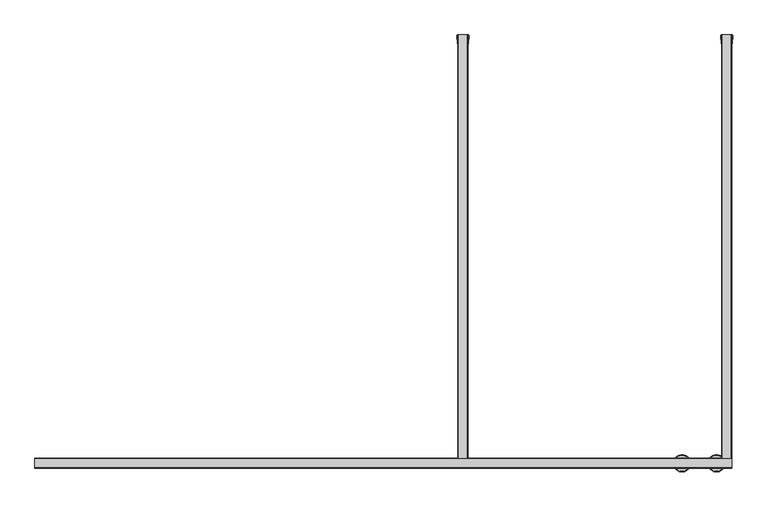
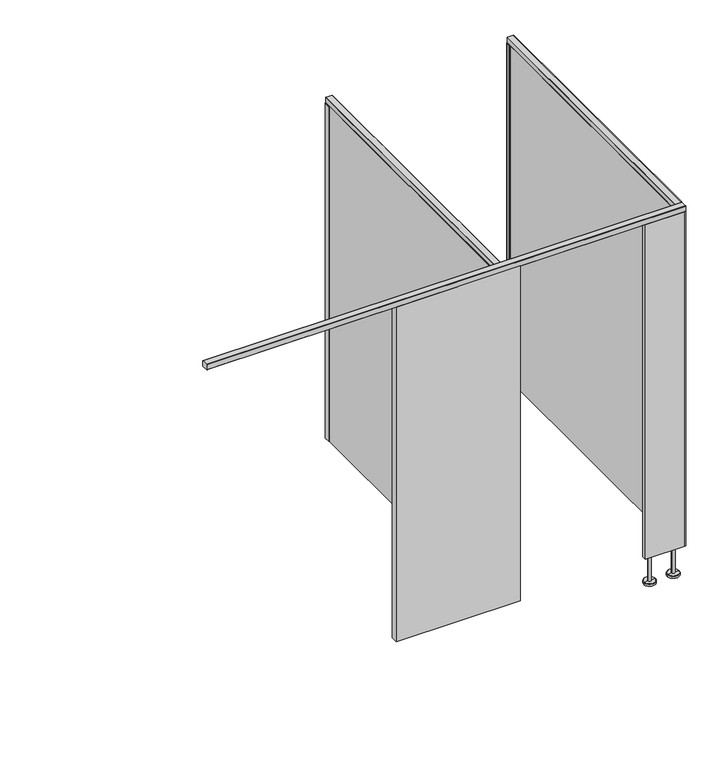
"""IFC4 building model written with IfcOpenShell, lengths in millimetres: proxy geometry, Partition_EuroStyle-Bradley_Corp-ADAStall_1StandardStall-LOFT : Partition_EuroStyle-Bradley_Corp-ADAStall_1StandardStall-LOFT."""

from ifc_helpers import new_model, si_unit, point, frame, frame_2d, origin, place, context, project, spatial, polyline, circle_curve, trimmed, segment, composite_curve, outline, extrude, source, transform, mapped, element, save
from ifc_brep_helpers import plane_surface, cylinder_surface, revolved_surface, advanced_brep


def specialty_equipment_164d930f(model_context):
    return source(origin(), model_context, "Body", "SolidModel", [
        extrude(outline(composite_curve([segment(polyline([(2344.9288796, -32.5000002), (2344.4205405, -2.02918)]), True, "CONTINUOUS"), segment(trimmed(circle_curve(frame_2d((2346.4497205, -2.02918)), 2.02918), [point((2344.4205405, -2.02918))], [point((2346.4497205, 0.0))], False, "CARTESIAN"), True, "CONTINUOUS"), segment(polyline([(2346.4497205, 0.0), (2384.3909298, 0.0)]), True, "CONTINUOUS"), segment(trimmed(circle_curve(frame_2d((2384.3909298, -2.02918)), 2.02918), [point((2384.3909298, 0.0))], [point((2386.4201098, -2.02918))], False, "CARTESIAN"), True, "CONTINUOUS"), segment(polyline([(2386.4201098, -2.02918), (2385.9117707, -32.5000002), (2384.4131851, -32.5000002)]), True, "CONTINUOUS"), segment(trimmed(circle_curve(frame_2d((2384.4167525, -31.5009082)), 0.9990984), [point((2384.4131851, -32.5000002))], [point((2383.9430999, -30.6212202))], False, "CARTESIAN"), True, "CONTINUOUS"), segment(polyline([(2383.9430999, -30.6212202), (2384.0642099, -23.3575702)]), True, "CONTINUOUS"), segment(trimmed(circle_curve(frame_2d((2384.5817558, -22.5000551)), 1.0015917), [point((2384.0642099, -23.3575702))], [point((2384.0926587, -21.6260013))], False, "CARTESIAN"), True, "CONTINUOUS"), segment(polyline([(2384.0926587, -21.6260013), (2384.38671, -4.0)]), True, "CONTINUOUS"), segment(trimmed(circle_curve(frame_2d((2382.3870154, -3.9990939)), 1.9996948), [point((2384.38671, -4.0))], [point((2382.3379958, -2.0))], True, "CARTESIAN"), True, "CONTINUOUS"), segment(polyline([(2382.3379958, -2.0), (2348.4536968, -2.0)]), True, "CONTINUOUS"), segment(trimmed(circle_curve(frame_2d((2348.4536968, -4.0002204)), 2.0002204), [point((2348.4536968, -2.0))], [point((2346.4535049, -3.9895469))], True, "CARTESIAN"), True, "CONTINUOUS"), segment(polyline([(2346.4535049, -3.9895469), (2346.7475604, -21.6257602)]), True, "CONTINUOUS"), segment(trimmed(circle_curve(frame_2d((2346.2588945, -22.5000551)), 1.0015917), [point((2346.7475604, -21.6257602))], [point((2346.7764404, -23.3575702))], False, "CARTESIAN"), True, "CONTINUOUS"), segment(polyline([(2346.7764404, -23.3575702), (2346.8975504, -30.6212202)]), True, "CONTINUOUS"), segment(trimmed(circle_curve(frame_2d((2346.4238978, -31.5009082)), 0.9990984), [point((2346.8975504, -30.6212202))], [point((2346.4274652, -32.5000002))], False, "CARTESIAN"), True, "CONTINUOUS"), segment(polyline([(2346.4274652, -32.5000002), (2344.9288796, -32.5000002)]), True, "CONTINUOUS")], self_intersect=False)), frame((0.0, 0.0, 150.0), z_axis=(0.0, 0.0, 1.0), x_axis=(1.0, 0.0, 0.0)), (0.0, 0.0, 1.0), 1855.0),
        extrude(outline(composite_curve([segment(polyline([(1394.518717, -32.5000002), (1394.0103779, -2.02918)]), True, "CONTINUOUS"), segment(trimmed(circle_curve(frame_2d((1396.0395579, -2.02918)), 2.02918), [point((1394.0103779, -2.02918))], [point((1396.0395579, 0.0))], False, "CARTESIAN"), True, "CONTINUOUS"), segment(polyline([(1396.0395579, 0.0), (1433.9807672, 0.0)]), True, "CONTINUOUS"), segment(trimmed(circle_curve(frame_2d((1433.9807672, -2.02918)), 2.02918), [point((1433.9807672, 0.0))], [point((1436.0099473, -2.02918))], False, "CARTESIAN"), True, "CONTINUOUS"), segment(polyline([(1436.0099473, -2.02918), (1435.5016081, -32.5000002), (1434.0030225, -32.5000002)]), True, "CONTINUOUS"), segment(trimmed(circle_curve(frame_2d((1434.0065899, -31.5009082)), 0.9990984), [point((1434.0030225, -32.5000002))], [point((1433.5329373, -30.6212202))], False, "CARTESIAN"), True, "CONTINUOUS"), segment(polyline([(1433.5329373, -30.6212202), (1433.6540473, -23.3575702)]), True, "CONTINUOUS"), segment(trimmed(circle_curve(frame_2d((1434.1715932, -22.5000551)), 1.0015917), [point((1433.6540473, -23.3575702))], [point((1433.6824961, -21.6260013))], False, "CARTESIAN"), True, "CONTINUOUS"), segment(polyline([(1433.6824961, -21.6260013), (1433.9765475, -4.0)]), True, "CONTINUOUS"), segment(trimmed(circle_curve(frame_2d((1431.9768528, -3.9990939)), 1.9996948), [point((1433.9765475, -4.0))], [point((1431.9278332, -2.0))], True, "CARTESIAN"), True, "CONTINUOUS"), segment(polyline([(1431.9278332, -2.0), (1398.0435342, -2.0)]), True, "CONTINUOUS"), segment(trimmed(circle_curve(frame_2d((1398.0435342, -4.0002204)), 2.0002204), [point((1398.0435342, -2.0))], [point((1396.0433424, -3.9895469))], True, "CARTESIAN"), True, "CONTINUOUS"), segment(polyline([(1396.0433424, -3.9895469), (1396.3373979, -21.6257602)]), True, "CONTINUOUS"), segment(trimmed(circle_curve(frame_2d((1395.848732, -22.5000551)), 1.0015917), [point((1396.3373979, -21.6257602))], [point((1396.3662779, -23.3575702))], False, "CARTESIAN"), True, "CONTINUOUS"), segment(polyline([(1396.3662779, -23.3575702), (1396.4873879, -30.6212202)]), True, "CONTINUOUS"), segment(trimmed(circle_curve(frame_2d((1396.0137352, -31.5009082)), 0.9990984), [point((1396.4873879, -30.6212202))], [point((1396.0173026, -32.5000002))], False, "CARTESIAN"), True, "CONTINUOUS"), segment(polyline([(1396.0173026, -32.5000002), (1394.518717, -32.5000002)]), True, "CONTINUOUS")], self_intersect=False)), frame((0.0, 0.0, 150.0), z_axis=(0.0, 0.0, 1.0), x_axis=(1.0, 0.0, 0.0)), (0.0, 0.0, 1.0), 1855.0),
        extrude(outline(composite_curve([segment(polyline([(2032.9666591, 2347.4203701), (2005.7492965, 2347.8741806)]), True, "CONTINUOUS"), segment(trimmed(circle_curve(frame_2d((2005.762, 2348.6360747)), 0.762), [point((2005.7492965, 2347.8741806))], [point((2005.0, 2348.6360747))], False, "CARTESIAN"), True, "CONTINUOUS"), segment(polyline([(2005.0, 2348.6360747), (2005.0, 2382.1733505)]), True, "CONTINUOUS"), segment(trimmed(circle_curve(frame_2d((2005.79375, 2382.1733505)), 0.79375), [point((2005.0, 2382.1733505))], [point((2005.7805172, 2382.9669902))], False, "CARTESIAN"), True, "CONTINUOUS"), segment(polyline([(2005.7805172, 2382.9669902), (2032.9666591, 2383.4202802)]), True, "CONTINUOUS"), segment(trimmed(circle_curve(frame_2d((2033.0000015, 2381.4205597)), 1.9999985), [point((2032.9666591, 2383.4202802))], [point((2035.0, 2381.4205597))], False, "CARTESIAN"), True, "CONTINUOUS"), segment(polyline([(2035.0, 2381.4205597), (2035.0, 2349.4200907)]), True, "CONTINUOUS"), segment(trimmed(circle_curve(frame_2d((2033.0000015, 2349.4200907)), 1.9999985), [point((2035.0, 2349.4200907))], [point((2032.9666591, 2347.4203701))], False, "CARTESIAN"), True, "CONTINUOUS")], self_intersect=False)), frame((0.0, -1524.0, 0.0), z_axis=(0.0, 1.0, 0.0), x_axis=(0.0, 0.0, 1.0)), (0.0, 0.0, 1.0), 1524.0),
        extrude(outline(composite_curve([segment(polyline([(-1523.9996998, 2032.9666591), (-1524.4535103, 2005.7492965)]), True, "CONTINUOUS"), segment(trimmed(circle_curve(frame_2d((-1525.2154044, 2005.762)), 0.762), [point((-1524.4535103, 2005.7492965))], [point((-1525.2154044, 2005.0))], False, "CARTESIAN"), True, "CONTINUOUS"), segment(polyline([(-1525.2154044, 2005.0), (-1558.7526802, 2005.0)]), True, "CONTINUOUS"), segment(trimmed(circle_curve(frame_2d((-1558.7526802, 2005.79375)), 0.79375), [point((-1558.7526802, 2005.0))], [point((-1559.5463199, 2005.7805172))], False, "CARTESIAN"), True, "CONTINUOUS"), segment(polyline([(-1559.5463199, 2005.7805172), (-1559.9996099, 2032.9666591)]), True, "CONTINUOUS"), segment(trimmed(circle_curve(frame_2d((-1557.9998894, 2033.0000015)), 1.9999985), [point((-1559.9996099, 2032.9666591))], [point((-1557.9998894, 2035.0))], False, "CARTESIAN"), True, "CONTINUOUS"), segment(polyline([(-1557.9998894, 2035.0), (-1525.9994204, 2035.0)]), True, "CONTINUOUS"), segment(trimmed(circle_curve(frame_2d((-1525.9994204, 2033.0000015)), 1.9999985), [point((-1525.9994204, 2035.0))], [point((-1523.9996998, 2032.9666591))], False, "CARTESIAN"), True, "CONTINUOUS")], self_intersect=False)), frame((-127.0, 0.0, 0.0), z_axis=(1.0, 0.0, 0.0), x_axis=(0.0, 1.0, 0.0)), (0.0, 0.0, 1.0), 2510.4203251),
        extrude(outline(composite_curve([segment(polyline([(2032.9666591, 1397.0102076), (2005.7492965, 1397.4640181)]), True, "CONTINUOUS"), segment(trimmed(circle_curve(frame_2d((2005.762, 1398.2259122)), 0.762), [point((2005.7492965, 1397.4640181))], [point((2005.0, 1398.2259122))], False, "CARTESIAN"), True, "CONTINUOUS"), segment(polyline([(2005.0, 1398.2259122), (2005.0, 1431.763188)]), True, "CONTINUOUS"), segment(trimmed(circle_curve(frame_2d((2005.79375, 1431.763188)), 0.79375), [point((2005.0, 1431.763188))], [point((2005.7805172, 1432.5568277))], False, "CARTESIAN"), True, "CONTINUOUS"), segment(polyline([(2005.7805172, 1432.5568277), (2032.9666591, 1433.0101176)]), True, "CONTINUOUS"), segment(trimmed(circle_curve(frame_2d((2033.0000015, 1431.0103971)), 1.9999985), [point((2032.9666591, 1433.0101176))], [point((2035.0, 1431.0103971))], False, "CARTESIAN"), True, "CONTINUOUS"), segment(polyline([(2035.0, 1431.0103971), (2035.0, 1399.0099281)]), True, "CONTINUOUS"), segment(trimmed(circle_curve(frame_2d((2033.0000015, 1399.0099281)), 1.9999985), [point((2035.0, 1399.0099281))], [point((2032.9666591, 1397.0102076))], False, "CARTESIAN"), True, "CONTINUOUS")], self_intersect=False)), frame((0.0, -1524.0, 0.0), z_axis=(0.0, 1.0, 0.0), x_axis=(0.0, 0.0, 1.0)), (0.0, 0.0, 1.0), 1524.0),
        advanced_brep(
        [(2319.3703255, -1541.9996549, 150.0000008), (2337.3703248, -1541.9996549, 150.0000008), (2337.3703248, -1541.9996549, 12.0000001), (2319.3703255, -1541.9996549, 12.0000001), (2328.3703251, -1541.9996549, 150.0000008), (2297.3703262, -1541.9996549, 0.0), (2359.3703241, -1541.9996549, 0.0), (2328.3703251, -1541.9996549, 0.0), (2297.3703262, -1541.9996549, 10.0000001), (2359.3703241, -1541.9996549, 10.0000001), (2299.3727381, -1541.9996549, 12.0000001), (2357.3679122, -1541.9996549, 12.0000001)],
        [
            (0, 1, circle_curve(frame((2328.3703251, -1541.9996549, 150.0000008), z_axis=(0.0, 0.0, -1.0), x_axis=(1.0, 0.0, 0.0)), 8.9999997)),
            (1, 2),
            (2, 3, circle_curve(frame((2328.3703251, -1541.9996549, 12.0000001), z_axis=(0.0, 0.0, 1.0), x_axis=(1.0, 0.0, 0.0)), 8.9999997)),
            (3, 0),
            (1, 0, circle_curve(frame((2328.3703251, -1541.9996549, 150.0000008), z_axis=(0.0, 0.0, -1.0), x_axis=(1.0, 0.0, 0.0)), 8.9999997)),
            (3, 2, circle_curve(frame((2328.3703251, -1541.9996549, 12.0000001), z_axis=(0.0, 0.0, 1.0), x_axis=(1.0, 0.0, 0.0)), 8.9999997)),
            (4, 1),
            (0, 4),
            (5, 6, circle_curve(frame((2328.3703251, -1541.9996549, 0.0), z_axis=(0.0, 0.0, -1.0), x_axis=(1.0, 0.0, 0.0)), 30.9999989)),
            (6, 7),
            (7, 5),
            (6, 5, circle_curve(frame((2328.3703251, -1541.9996549, 0.0), z_axis=(0.0, 0.0, -1.0), x_axis=(1.0, 0.0, 0.0)), 30.9999989)),
            (8, 9, circle_curve(frame((2328.3703251, -1541.9996549, 10.0000001), z_axis=(0.0, 0.0, -1.0), x_axis=(1.0, 0.0, 0.0)), 30.9999989)),
            (9, 6),
            (5, 8),
            (9, 8, circle_curve(frame((2328.3703251, -1541.9996549, 10.0000001), z_axis=(0.0, 0.0, -1.0), x_axis=(1.0, 0.0, 0.0)), 30.9999989)),
            (10, 11, circle_curve(frame((2328.3703251, -1541.9996549, 12.0000001), z_axis=(0.0, 0.0, -1.0), x_axis=(1.0, 0.0, 0.0)), 28.997587)),
            (11, 9),
            (8, 10),
            (11, 10, circle_curve(frame((2328.3703251, -1541.9996549, 12.0000001), z_axis=(0.0, 0.0, -1.0), x_axis=(1.0, 0.0, 0.0)), 28.997587)),
            (2, 11),
            (10, 3),
        ],
        [
            cylinder_surface(frame((2328.3703251, -1541.9996549, 0.0), z_axis=(0.0, 0.0, 1.0), x_axis=(1.0, 0.0, 0.0)), 8.9999997),
            plane_surface(frame((2328.3703251, -1541.9996549, 150.0000008), z_axis=(0.0, 0.0, 1.0), x_axis=(1.0, 0.0, 0.0))),
            plane_surface(frame((2328.3703251, -1541.9996549, 0.0), z_axis=(0.0, 0.0, -1.0), x_axis=(1.0, 0.0, 0.0))),
            cylinder_surface(frame((2328.3703251, -1541.9996549, 0.0), z_axis=(0.0, 0.0, 1.0), x_axis=(1.0, 0.0, 0.0)), 30.9999989),
            revolved_surface(polyline([(2359.3703241, -1541.9996549, 10.0000001), (2357.3679122, -1541.9996549, 12.0000001)]), (2328.3703251, -1541.9996549, 0.0), (0.0, 0.0, 1.0)),
            plane_surface(frame((2328.3703251, -1541.9996549, 12.0000001), z_axis=(0.0, 0.0, 1.0), x_axis=(1.0, 0.0, 0.0))),
        ],
        [
            (0, [[1, 2, 3, 4]]),
            (0, [[5, -4, 6, -2]]),
            (1, [[7, -1, 8]]),
            (1, [[-8, -5, -7]]),
            (2, [[9, 10, 11]]),
            (2, [[12, -11, -10]]),
            (3, [[13, 14, -9, 15]]),
            (3, [[16, -15, -12, -14]]),
            (4, [[17, 18, -13, 19]]),
            (4, [[20, -19, -16, -18]]),
            (5, [[-3, 21, -17, 22]]),
            (5, [[-6, -22, -20, -21]]),
        ],
    ),
        advanced_brep(
        [(2195.0453255, -1541.9996549, 150.0000008), (2213.0453248, -1541.9996549, 150.0000008), (2213.0453248, -1541.9996549, 12.0000001), (2195.0453255, -1541.9996549, 12.0000001), (2204.0453251, -1541.9996549, 150.0000008), (2173.0453262, -1541.9996549, 0.0), (2235.0453241, -1541.9996549, 0.0), (2204.0453251, -1541.9996549, 0.0), (2173.0453262, -1541.9996549, 10.0000001), (2235.0453241, -1541.9996549, 10.0000001), (2175.0477381, -1541.9996549, 12.0000001), (2233.0429122, -1541.9996549, 12.0000001)],
        [
            (0, 1, circle_curve(frame((2204.0453251, -1541.9996549, 150.0000008), z_axis=(0.0, 0.0, -1.0), x_axis=(1.0, 0.0, 0.0)), 8.9999997)),
            (1, 2),
            (2, 3, circle_curve(frame((2204.0453251, -1541.9996549, 12.0000001), z_axis=(0.0, 0.0, 1.0), x_axis=(1.0, 0.0, 0.0)), 8.9999997)),
            (3, 0),
            (1, 0, circle_curve(frame((2204.0453251, -1541.9996549, 150.0000008), z_axis=(0.0, 0.0, -1.0), x_axis=(1.0, 0.0, 0.0)), 8.9999997)),
            (3, 2, circle_curve(frame((2204.0453251, -1541.9996549, 12.0000001), z_axis=(0.0, 0.0, 1.0), x_axis=(1.0, 0.0, 0.0)), 8.9999997)),
            (4, 1),
            (0, 4),
            (5, 6, circle_curve(frame((2204.0453251, -1541.9996549, 0.0), z_axis=(0.0, 0.0, -1.0), x_axis=(1.0, 0.0, 0.0)), 30.9999989)),
            (6, 7),
            (7, 5),
            (6, 5, circle_curve(frame((2204.0453251, -1541.9996549, 0.0), z_axis=(0.0, 0.0, -1.0), x_axis=(1.0, 0.0, 0.0)), 30.9999989)),
            (8, 9, circle_curve(frame((2204.0453251, -1541.9996549, 10.0000001), z_axis=(0.0, 0.0, -1.0), x_axis=(1.0, 0.0, 0.0)), 30.9999989)),
            (9, 6),
            (5, 8),
            (9, 8, circle_curve(frame((2204.0453251, -1541.9996549, 10.0000001), z_axis=(0.0, 0.0, -1.0), x_axis=(1.0, 0.0, 0.0)), 30.9999989)),
            (10, 11, circle_curve(frame((2204.0453251, -1541.9996549, 12.0000001), z_axis=(0.0, 0.0, -1.0), x_axis=(1.0, 0.0, 0.0)), 28.997587)),
            (11, 9),
            (8, 10),
            (11, 10, circle_curve(frame((2204.0453251, -1541.9996549, 12.0000001), z_axis=(0.0, 0.0, -1.0), x_axis=(1.0, 0.0, 0.0)), 28.997587)),
            (2, 11),
            (10, 3),
        ],
        [
            cylinder_surface(frame((2204.0453251, -1541.9996549, 0.0), z_axis=(0.0, 0.0, 1.0), x_axis=(1.0, 0.0, 0.0)), 8.9999997),
            plane_surface(frame((2204.0453251, -1541.9996549, 150.0000008), z_axis=(0.0, 0.0, 1.0), x_axis=(1.0, 0.0, 0.0))),
            plane_surface(frame((2204.0453251, -1541.9996549, 0.0), z_axis=(0.0, 0.0, -1.0), x_axis=(1.0, 0.0, 0.0))),
            cylinder_surface(frame((2204.0453251, -1541.9996549, 0.0), z_axis=(0.0, 0.0, 1.0), x_axis=(1.0, 0.0, 0.0)), 30.9999989),
            revolved_surface(polyline([(2235.0453241, -1541.9996549, 10.0000001), (2233.0429122, -1541.9996549, 12.0000001)]), (2204.0453251, -1541.9996549, 0.0), (0.0, 0.0, 1.0)),
            plane_surface(frame((2204.0453251, -1541.9996549, 12.0000001), z_axis=(0.0, 0.0, 1.0), x_axis=(1.0, 0.0, 0.0))),
        ],
        [
            (0, [[1, 2, 3, 4]]),
            (0, [[5, -4, 6, -2]]),
            (1, [[7, -1, 8]]),
            (1, [[-8, -5, -7]]),
            (2, [[9, 10, 11]]),
            (2, [[12, -11, -10]]),
            (3, [[13, 14, -9, 15]]),
            (3, [[16, -15, -12, -14]]),
            (4, [[17, 18, -13, 19]]),
            (4, [[20, -19, -16, -18]]),
            (5, [[-3, 21, -17, 22]]),
            (5, [[-6, -22, -20, -21]]),
        ],
    ),
        extrude(outline(polyline([(1517.0170903, -1524.0), (1517.0170903, -1559.9996549), (866.1, -1559.9996549), (866.1, -1524.0), (1517.0170903, -1524.0)])), frame((0.0, 0.0, 150.0), z_axis=(0.0, 0.0, 1.0), x_axis=(1.0, 0.0, 0.0)), (0.0, 0.0, 1.0), 1855.0),
        extrude(outline(polyline([(2383.4203251, -1555.2473174), (2383.4203251, -1559.9996099), (2378.6578251, -1559.9996099), (2378.6578251, -1555.2473174), (2383.4203251, -1555.2473174)])), frame((0.0, 0.0, 150.0), z_axis=(0.0, 0.0, 1.0), x_axis=(1.0, 0.0, 0.0)), (0.0, 0.0, 1.0), 1855.0),
        extrude(outline(polyline([(2172.1201766, -1534.6098174), (2182.5305201, -1534.6098174), (2182.5305201, -1524.0), (2347.4105077, -1524.0), (2378.6578251, -1555.2473174), (2378.6578251, -1559.9996549), (2172.1201766, -1559.9996549), (2172.1201766, -1534.6098174)])), frame((0.0, 0.0, 150.0), z_axis=(0.0, 0.0, 1.0), x_axis=(1.0, 0.0, 0.0)), (0.0, 0.0, 1.0), 1855.0),
        extrude(outline(polyline([(2347.4203251, -1524.0098174), (2347.4203251, -9.9993891), (2383.4203251, -9.9993891), (2383.4203251, -1555.2473174), (2378.6578251, -1555.2473174), (2347.4203251, -1524.0098174)])), frame((0.0, 0.0, 150.0), z_axis=(0.0, 0.0, 1.0), x_axis=(1.0, 0.0, 0.0)), (0.0, 0.0, 1.0), 1855.0),
        extrude(outline(polyline([(1397.0, -1514.094), (1397.0, -9.9993891), (1433.0203251, -9.9993891), (1433.0203251, -1514.094), (1397.0, -1514.094)])), frame((0.0, 0.0, 150.0), z_axis=(0.0, 0.0, 1.0), x_axis=(1.0, 0.0, 0.0)), (0.0, 0.0, 1.0), 1855.0),
    ])


if __name__ == "__main__":
    model = new_model("IFC4")
    model_context = context("Model", 3, world=origin())
    ifc_project = project(units=[si_unit("LENGTHUNIT", "METRE", prefix="MILLI")], contexts=[model_context])
    site = spatial("IfcSite", under=ifc_project)
    building = spatial("IfcBuilding", under=site)
    placement = place(None, origin())
    specialty_equipment_shape = specialty_equipment_164d930f(model_context)
    element("IfcBuildingElementProxy", 1, Name="Partition_EuroStyle-Bradley_Corp-ADAStall_1StandardStall-LOFT : Partition_EuroStyle-Bradley_Corp-ADAStall_1StandardStall-LOFT", ObjectType="Partition_EuroStyle-Bradley_Corp-ADAStall_1StandardStall-LOFT : Partition_EuroStyle-Bradley_Corp-ADAStall_1StandardStall-LOFT", at=placement, inside=building, context=model_context, shape_type="MappedRepresentation", body=[
        mapped(specialty_equipment_shape, transform((0.0, 0.0, 0.0), x_axis=(1.0, 0.0, 0.0), y_axis=(0.0, 1.0, 0.0), z_axis=(0.0, 0.0, 1.0))),
    ])
    save(model, "model.ifc")
